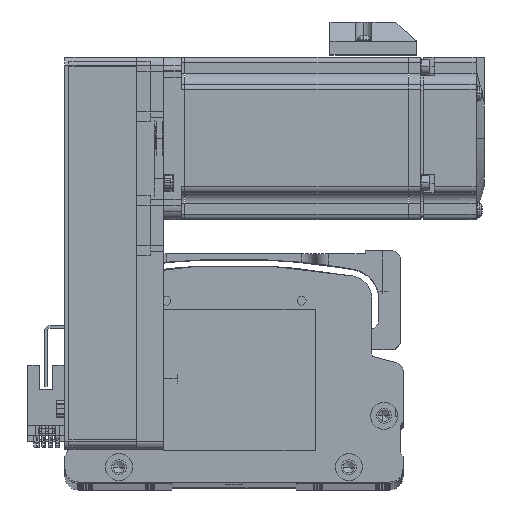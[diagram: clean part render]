
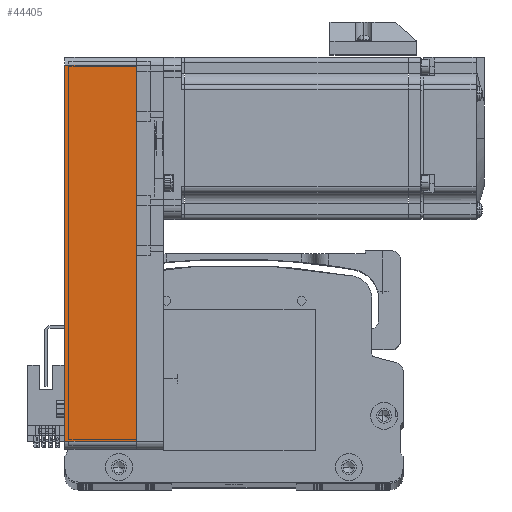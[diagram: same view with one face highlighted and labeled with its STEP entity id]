
A CAD part, top view. The second image highlights one B-rep face of the part: STEP entity #44405.
In plain terms, the highlighted planar face has unit normal (0, 0, 1) as drawn and (0, -1, 0) by its records, which use the part's own axes.
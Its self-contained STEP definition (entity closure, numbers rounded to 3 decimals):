
#1606 = ORIENTED_EDGE ( 'NONE', *, *, #76713, .F. ) ;
#2656 = CARTESIAN_POINT ( 'NONE',  ( -69.5, -30., 26.5 ) ) ;
#7722 = CARTESIAN_POINT ( 'NONE',  ( 72.5, -30., 26.5 ) ) ;
#13895 = PLANE ( 'NONE',  #59377 ) ;
#14466 = DIRECTION ( 'NONE',  ( -1., 0., 0. ) ) ;
#14517 = CARTESIAN_POINT ( 'NONE',  ( -69.5, -30., 0. ) ) ;
#14947 = CARTESIAN_POINT ( 'NONE',  ( 72.5, -30., 26.5 ) ) ;
#20705 = CARTESIAN_POINT ( 'NONE',  ( -69.5, -30., 26.5 ) ) ;
#26423 = LINE ( 'NONE', #14947, #67195 ) ;
#29689 = VERTEX_POINT ( 'NONE', #14517 ) ;
#33438 = LINE ( 'NONE', #20705, #47020 ) ;
#34769 = LINE ( 'NONE', #86827, #50453 ) ;
#36303 = LINE ( 'NONE', #68671, #85582 ) ;
#38391 = EDGE_CURVE ( 'NONE', #71090, #29689, #33438, .T. ) ;
#40589 = EDGE_CURVE ( 'NONE', #60256, #66148, #36303, .T. ) ;
#43849 = EDGE_CURVE ( 'NONE', #29689, #60256, #34769, .T. ) ;
#44405 = ADVANCED_FACE ( 'NONE', ( #78635 ), #13895, .F. ) ;
#45532 = ORIENTED_EDGE ( 'NONE', *, *, #43849, .T. ) ;
#47020 = VECTOR ( 'NONE', #67533, 1000. ) ;
#50453 = VECTOR ( 'NONE', #60205, 1000. ) ;
#53806 = ORIENTED_EDGE ( 'NONE', *, *, #40589, .T. ) ;
#54497 = DIRECTION ( 'NONE',  ( 0., 1., 0. ) ) ;
#59377 = AXIS2_PLACEMENT_3D ( 'NONE', #7722, #54497, #14466 ) ;
#60205 = DIRECTION ( 'NONE',  ( 1., 0., 0. ) ) ;
#60256 = VERTEX_POINT ( 'NONE', #77318 ) ;
#62259 = DIRECTION ( 'NONE',  ( 0., 0., 1. ) ) ;
#66148 = VERTEX_POINT ( 'NONE', #75213 ) ;
#67195 = VECTOR ( 'NONE', #74926, 1000. ) ;
#67255 = EDGE_LOOP ( 'NONE', ( #45532, #53806, #1606, #84296 ) ) ;
#67533 = DIRECTION ( 'NONE',  ( 0., 0., -1. ) ) ;
#68671 = CARTESIAN_POINT ( 'NONE',  ( 69.5, -30., 26.5 ) ) ;
#71090 = VERTEX_POINT ( 'NONE', #2656 ) ;
#74926 = DIRECTION ( 'NONE',  ( 1., 0., 0. ) ) ;
#75213 = CARTESIAN_POINT ( 'NONE',  ( 69.5, -30., 26.5 ) ) ;
#76713 = EDGE_CURVE ( 'NONE', #71090, #66148, #26423, .T. ) ;
#77318 = CARTESIAN_POINT ( 'NONE',  ( 69.5, -30., 0. ) ) ;
#78635 = FACE_OUTER_BOUND ( 'NONE', #67255, .T. ) ;
#84296 = ORIENTED_EDGE ( 'NONE', *, *, #38391, .T. ) ;
#85582 = VECTOR ( 'NONE', #62259, 1000. ) ;
#86827 = CARTESIAN_POINT ( 'NONE',  ( 72.5, -30., 0. ) ) ;
